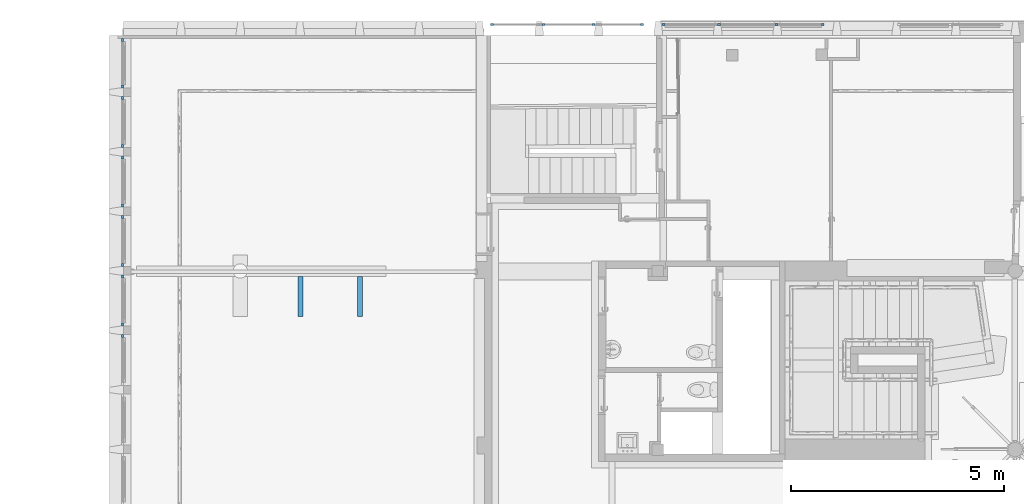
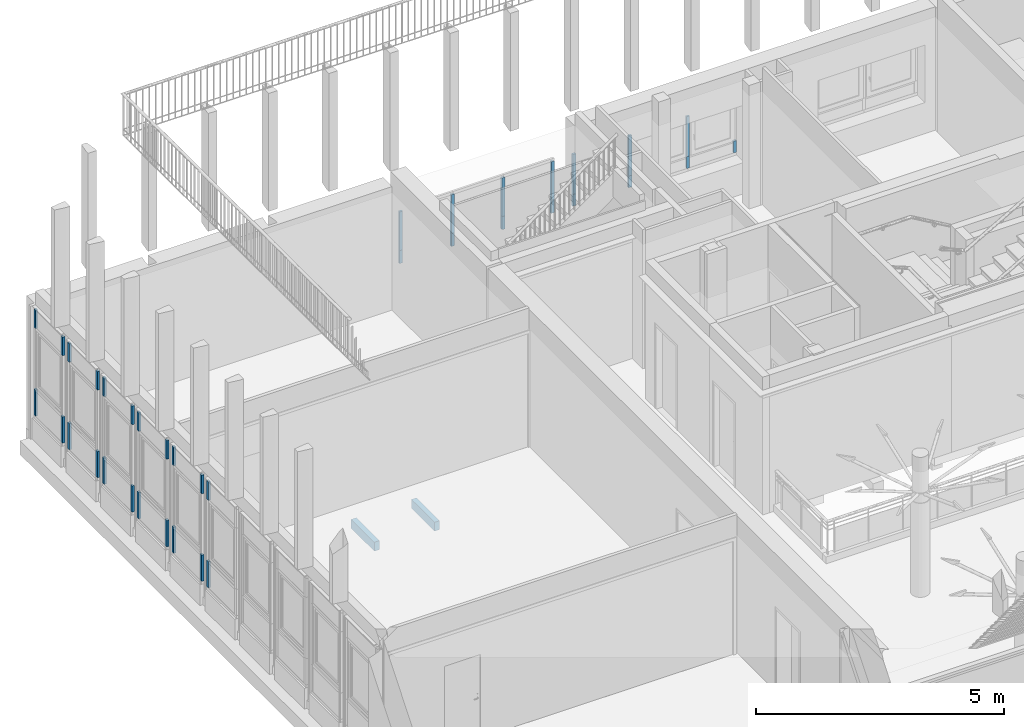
# One storey, part 13 of 65: 37 members, 2 beams, 8 elements without a shape of their own.
"""IFC4 building model written with IfcOpenShell, lengths in metres."""

from ifc_helpers import new_model, entity, si_unit, converted_unit, derived_unit, direction, frame, origin, place, context, subcontext, project, spatial, indexed_curve, outline, extrude, source, transform, mapped, material, type_object, type_shapes, element, aggregate, save


model = new_model("IFC4")

# Units and contexts
model_context = context("Model", 3, precision=1e-05, world=origin(), true_north=direction((6.12303176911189e-17, 1.0)))
body_context = subcontext(model_context, "Body", "Model", "MODEL_VIEW")
ifc_project = project(units=[si_unit("LENGTHUNIT", "METRE"), si_unit("AREAUNIT", "SQUARE_METRE"), si_unit("VOLUMEUNIT", "CUBIC_METRE"), converted_unit("PLANEANGLEUNIT", "DEGREE", entity("IfcRatioMeasure", 0.0174532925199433), si_unit("PLANEANGLEUNIT", "RADIAN"), dimensions=[0, 0, 0, 0, 0, 0, 0]), si_unit("MASSUNIT", "GRAM", prefix="KILO"), derived_unit("MASSDENSITYUNIT", [(si_unit("MASSUNIT", "GRAM", prefix="KILO"), 1), (si_unit("LENGTHUNIT", "METRE"), -3)]), derived_unit("MOMENTOFINERTIAUNIT", [(si_unit("LENGTHUNIT", "METRE"), 4)]), si_unit("TIMEUNIT", "SECOND"), si_unit("FREQUENCYUNIT", "HERTZ"), si_unit("THERMODYNAMICTEMPERATUREUNIT", "DEGREE_CELSIUS"), derived_unit("THERMALTRANSMITTANCEUNIT", [(si_unit("MASSUNIT", "GRAM", prefix="KILO"), 1), (si_unit("THERMODYNAMICTEMPERATUREUNIT", "KELVIN"), -1), (si_unit("TIMEUNIT", "SECOND"), -3)]), derived_unit("VOLUMETRICFLOWRATEUNIT", [(si_unit("LENGTHUNIT", "METRE"), 3), (si_unit("TIMEUNIT", "SECOND"), -1)]), si_unit("ELECTRICCURRENTUNIT", "AMPERE"), si_unit("ELECTRICVOLTAGEUNIT", "VOLT"), si_unit("POWERUNIT", "WATT"), si_unit("FORCEUNIT", "NEWTON", prefix="KILO"), si_unit("ILLUMINANCEUNIT", "LUX"), si_unit("LUMINOUSFLUXUNIT", "LUMEN"), si_unit("LUMINOUSINTENSITYUNIT", "CANDELA"), derived_unit("USERDEFINED", [(si_unit("MASSUNIT", "GRAM", prefix="KILO"), -1), (si_unit("LENGTHUNIT", "METRE"), -2), (si_unit("TIMEUNIT", "SECOND"), 3), (si_unit("LUMINOUSFLUXUNIT", "LUMEN"), 1)]), derived_unit("LINEARVELOCITYUNIT", [(si_unit("LENGTHUNIT", "METRE"), 1), (si_unit("TIMEUNIT", "SECOND"), -1)]), si_unit("PRESSUREUNIT", "PASCAL"), derived_unit("USERDEFINED", [(si_unit("LENGTHUNIT", "METRE"), -2), (si_unit("MASSUNIT", "GRAM", prefix="KILO"), 1), (si_unit("TIMEUNIT", "SECOND"), -2)]), derived_unit("LINEARFORCEUNIT", [(si_unit("MASSUNIT", "GRAM", prefix="KILO"), 1), (si_unit("LENGTHUNIT", "METRE"), 1), (si_unit("TIMEUNIT", "SECOND"), -2), (si_unit("LENGTHUNIT", "METRE"), -1)]), derived_unit("PLANARFORCEUNIT", [(si_unit("MASSUNIT", "GRAM", prefix="KILO"), 1), (si_unit("LENGTHUNIT", "METRE"), 1), (si_unit("TIMEUNIT", "SECOND"), -2), (si_unit("LENGTHUNIT", "METRE"), -2)])], contexts=[model_context])

# Site, building, storey
site_placement = place(None, origin())
site = spatial("IfcSite", under=ifc_project, at=site_placement, Name="Default", CompositionType="ELEMENT")
building_placement = place(site_placement, origin())
building = spatial("IfcBuilding", under=site, at=building_placement, Name="HOTEL CONSULAIRE BOULOGNE SUR MER", CompositionType="ELEMENT")
storey_placement = place(building_placement, origin())
storey = spatial("IfcBuildingStorey", under=building, at=storey_placement, Name="Niveau 0", CompositionType="ELEMENT", Elevation=1.31981936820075e-13)

# Curtain wall, member
curtain_wall_type = type_object("IfcCurtainWallType", Name="Mur-rideau:Simple panneau", PredefinedType="NOTDEFINED")
curtain_wall_1_placement = place(storey_placement, origin())
curtain_wall_1 = element("IfcCurtainWall", 1, at=curtain_wall_1_placement, inside=storey, type_object=curtain_wall_type, Name="Mur-rideau:Simple panneau", ObjectType="Mur-rideau:Simple panneau", PredefinedType="NOTDEFINED")
ifc_material_1 = material(Name="PVC - Blanc", Category="Plastique")
member_type_1 = type_object("IfcMemberType", Name="Meneau rectangulaire:50 x 35", PredefinedType="MULLION", material=ifc_material_1)
shared_shape_1 = source(origin(), body_context, "Body", "SweptSolid", [
    extrude(outline(indexed_curve([(-0.025, -0.035), (0.025, -0.035), (0.025, 0.035), (-0.025, 0.035), (-0.025, -0.035)], self_intersect=False)), frame((-0.035, -0.025, -0.458999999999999), z_axis=(0.0, 0.0, 1.0), x_axis=(0.0, -1.0, 0.0)), (0.0, 0.0, 1.0), 0.458999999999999),
])
type_shapes(member_type_1, [shared_shape_1])
member_1_placement = place(storey_placement, frame((-13.7900998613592, -16.9114499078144, 2.96999999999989), z_axis=(0.0, 0.0, 1.0), x_axis=(0.0, -1.0, 0.0)))
member_1 = element("IfcMember", 2, at=member_1_placement, type_object=member_type_1, material=ifc_material_1, Name="Meneau rectangulaire:50 x 35", ObjectType="Meneau rectangulaire:50 x 35", PredefinedType="MULLION", context=body_context, shape_type="MappedRepresentation", body=[
    mapped(shared_shape_1, transform((0.0, 0.0, 0.0), scale=1.0)),
])

curtain_wall_2_placement = place(storey_placement, origin())
curtain_wall_2 = element("IfcCurtainWall", 3, at=curtain_wall_2_placement, inside=storey, type_object=curtain_wall_type, Name="Mur-rideau:Simple panneau", ObjectType="Mur-rideau:Simple panneau", PredefinedType="NOTDEFINED")
member_2_placement = place(storey_placement, frame((-13.7900998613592, -15.5114499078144, 2.96999999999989), z_axis=(0.0, 0.0, 1.0), x_axis=(0.0, -1.0, 0.0)))
member_2 = element("IfcMember", 4, at=member_2_placement, type_object=member_type_1, material=ifc_material_1, Name="Meneau rectangulaire:50 x 35", ObjectType="Meneau rectangulaire:50 x 35", PredefinedType="MULLION", context=body_context, shape_type="MappedRepresentation", body=[
    mapped(shared_shape_1, transform((0.0, 0.0, 0.0), scale=1.0)),
])

curtain_wall_3_placement = place(storey_placement, origin())
curtain_wall_3 = element("IfcCurtainWall", 5, at=curtain_wall_3_placement, inside=storey, type_object=curtain_wall_type, Name="Mur-rideau:Simple panneau", ObjectType="Mur-rideau:Simple panneau", PredefinedType="NOTDEFINED")
member_3_placement = place(storey_placement, frame((-13.7900998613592, -14.1114499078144, 2.96999999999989), z_axis=(0.0, 0.0, 1.0), x_axis=(0.0, -1.0, 0.0)))
member_3 = element("IfcMember", 6, at=member_3_placement, type_object=member_type_1, material=ifc_material_1, Name="Meneau rectangulaire:50 x 35", ObjectType="Meneau rectangulaire:50 x 35", PredefinedType="MULLION", context=body_context, shape_type="MappedRepresentation", body=[
    mapped(shared_shape_1, transform((0.0, 0.0, 0.0), scale=1.0)),
])

curtain_wall_4_placement = place(storey_placement, origin())
curtain_wall_4 = element("IfcCurtainWall", 7, at=curtain_wall_4_placement, inside=storey, type_object=curtain_wall_type, Name="Mur-rideau:Simple panneau", ObjectType="Mur-rideau:Simple panneau", PredefinedType="NOTDEFINED")
member_4_placement = place(storey_placement, frame((-13.7900998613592, -12.7114499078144, 2.96999999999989), z_axis=(0.0, 0.0, 1.0), x_axis=(0.0, -1.0, 0.0)))
member_4 = element("IfcMember", 8, at=member_4_placement, type_object=member_type_1, material=ifc_material_1, Name="Meneau rectangulaire:50 x 35", ObjectType="Meneau rectangulaire:50 x 35", PredefinedType="MULLION", context=body_context, shape_type="MappedRepresentation", body=[
    mapped(shared_shape_1, transform((0.0, 0.0, 0.0), scale=1.0)),
])

curtain_wall_5_placement = place(storey_placement, origin())
curtain_wall_5 = element("IfcCurtainWall", 9, at=curtain_wall_5_placement, inside=storey, type_object=curtain_wall_type, Name="Mur-rideau:Simple panneau", ObjectType="Mur-rideau:Simple panneau", PredefinedType="NOTDEFINED")
member_5_placement = place(storey_placement, frame((-13.7900998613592, -11.3114499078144, 2.96999999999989), z_axis=(0.0, 0.0, 1.0), x_axis=(0.0, -1.0, 0.0)))
member_5 = element("IfcMember", 10, at=member_5_placement, type_object=member_type_1, material=ifc_material_1, Name="Meneau rectangulaire:50 x 35", ObjectType="Meneau rectangulaire:50 x 35", PredefinedType="MULLION", context=body_context, shape_type="MappedRepresentation", body=[
    mapped(shared_shape_1, transform((0.0, 0.0, 0.0), scale=1.0)),
])

curtain_wall_6_placement = place(storey_placement, origin())
curtain_wall_6 = element("IfcCurtainWall", 11, at=curtain_wall_6_placement, inside=storey, type_object=curtain_wall_type, Name="Mur-rideau:Simple panneau", ObjectType="Mur-rideau:Simple panneau", PredefinedType="NOTDEFINED")
member_type_2 = type_object("IfcMemberType", Name="Meneau rectangulaire:50 x 35", PredefinedType="MULLION", material=ifc_material_1)
shared_shape_2 = source(origin(), body_context, "Body", "SweptSolid", [
    extrude(outline(indexed_curve([(-0.025, -0.035), (0.025, -0.035), (0.025, 0.035), (-0.025, 0.035), (-0.025, -0.035)], self_intersect=False)), frame((-0.035, -0.025, -0.647), z_axis=(0.0, 0.0, 1.0), x_axis=(0.0, -1.0, 0.0)), (0.0, 0.0, 1.0), 0.647),
])
type_shapes(member_type_2, [shared_shape_2])
member_6_placement = place(storey_placement, frame((-13.7900998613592, -17.1114499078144, 0.359999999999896), z_axis=(0.0, 0.0, -1.0), x_axis=(0.0, 1.0, 0.0)))
member_6 = element("IfcMember", 12, at=member_6_placement, type_object=member_type_2, material=ifc_material_1, Name="Meneau rectangulaire:50 x 35", ObjectType="Meneau rectangulaire:50 x 35", PredefinedType="MULLION", context=body_context, shape_type="MappedRepresentation", body=[
    mapped(shared_shape_2, transform((0.0, 0.0, 0.0), scale=1.0)),
])

# Member
member_7_placement = place(storey_placement, frame((-13.7900998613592, -15.7114499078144, 0.359999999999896), z_axis=(0.0, 0.0, -1.0), x_axis=(0.0, 1.0, 0.0)))
member_7 = element("IfcMember", 13, at=member_7_placement, type_object=member_type_2, material=ifc_material_1, Name="Meneau rectangulaire:50 x 35", ObjectType="Meneau rectangulaire:50 x 35", PredefinedType="MULLION", context=body_context, shape_type="MappedRepresentation", body=[
    mapped(shared_shape_2, transform((0.0, 0.0, 0.0), scale=1.0)),
])

member_8_placement = place(storey_placement, frame((-13.7900998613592, -14.3114499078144, 0.359999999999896), z_axis=(0.0, 0.0, -1.0), x_axis=(0.0, 1.0, 0.0)))
member_8 = element("IfcMember", 14, at=member_8_placement, type_object=member_type_2, material=ifc_material_1, Name="Meneau rectangulaire:50 x 35", ObjectType="Meneau rectangulaire:50 x 35", PredefinedType="MULLION", context=body_context, shape_type="MappedRepresentation", body=[
    mapped(shared_shape_2, transform((0.0, 0.0, 0.0), scale=1.0)),
])

member_9_placement = place(storey_placement, frame((-13.7900998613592, -12.9114499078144, 0.359999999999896), z_axis=(0.0, 0.0, -1.0), x_axis=(0.0, 1.0, 0.0)))
member_9 = element("IfcMember", 15, at=member_9_placement, type_object=member_type_2, material=ifc_material_1, Name="Meneau rectangulaire:50 x 35", ObjectType="Meneau rectangulaire:50 x 35", PredefinedType="MULLION", context=body_context, shape_type="MappedRepresentation", body=[
    mapped(shared_shape_2, transform((0.0, 0.0, 0.0), scale=1.0)),
])

member_10_placement = place(storey_placement, frame((-13.7900998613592, -11.5114499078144, 0.359999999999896), z_axis=(0.0, 0.0, -1.0), x_axis=(0.0, 1.0, 0.0)))
member_10 = element("IfcMember", 16, at=member_10_placement, type_object=member_type_2, material=ifc_material_1, Name="Meneau rectangulaire:50 x 35", ObjectType="Meneau rectangulaire:50 x 35", PredefinedType="MULLION", context=body_context, shape_type="MappedRepresentation", body=[
    mapped(shared_shape_2, transform((0.0, 0.0, 0.0), scale=1.0)),
])

member_11_placement = place(storey_placement, frame((-13.7900998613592, -10.1503241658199, 0.359999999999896), z_axis=(0.0, 0.0, -1.0), x_axis=(0.0, 1.0, 0.0)))
member_11 = element("IfcMember", 17, at=member_11_placement, type_object=member_type_2, material=ifc_material_1, Name="Meneau rectangulaire:50 x 35", ObjectType="Meneau rectangulaire:50 x 35", PredefinedType="MULLION", context=body_context, shape_type="MappedRepresentation", body=[
    mapped(shared_shape_2, transform((0.0, 0.0, 0.0), scale=1.0)),
])

member_type_3 = type_object("IfcMemberType", Name="Meneau rectangulaire:50 x 35", PredefinedType="MULLION", material=ifc_material_1)
shared_shape_3 = source(origin(), body_context, "Body", "SweptSolid", [
    extrude(outline(indexed_curve([(-0.025, -0.035), (0.025, -0.035), (0.025, 0.035), (-0.025, 0.035), (-0.025, -0.035)], self_intersect=False)), frame((-0.035, -0.025, -0.458999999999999), z_axis=(0.0, 0.0, 1.0), x_axis=(0.0, -1.0, 0.0)), (0.0, 0.0, 1.0), 0.458999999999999),
])
type_shapes(member_type_3, [shared_shape_3])
member_12_placement = place(storey_placement, frame((-13.7900998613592, -17.1114499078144, 2.5109999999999), z_axis=(0.0, 0.0, -1.0), x_axis=(0.0, 1.0, 0.0)))
member_12 = element("IfcMember", 18, at=member_12_placement, type_object=member_type_3, material=ifc_material_1, Name="Meneau rectangulaire:50 x 35", ObjectType="Meneau rectangulaire:50 x 35", PredefinedType="MULLION", context=body_context, shape_type="MappedRepresentation", body=[
    mapped(shared_shape_3, transform((0.0, 0.0, 0.0), scale=1.0)),
])

aggregate(curtain_wall_6, [member_6, member_12])

member_13_placement = place(storey_placement, frame((-13.7900998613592, -15.7114499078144, 2.5109999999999), z_axis=(0.0, 0.0, -1.0), x_axis=(0.0, 1.0, 0.0)))
member_13 = element("IfcMember", 19, at=member_13_placement, type_object=member_type_3, material=ifc_material_1, Name="Meneau rectangulaire:50 x 35", ObjectType="Meneau rectangulaire:50 x 35", PredefinedType="MULLION", context=body_context, shape_type="MappedRepresentation", body=[
    mapped(shared_shape_3, transform((0.0, 0.0, 0.0), scale=1.0)),
])

member_14_placement = place(storey_placement, frame((-13.7900998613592, -14.3114499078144, 2.5109999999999), z_axis=(0.0, 0.0, -1.0), x_axis=(0.0, 1.0, 0.0)))
member_14 = element("IfcMember", 20, at=member_14_placement, type_object=member_type_3, material=ifc_material_1, Name="Meneau rectangulaire:50 x 35", ObjectType="Meneau rectangulaire:50 x 35", PredefinedType="MULLION", context=body_context, shape_type="MappedRepresentation", body=[
    mapped(shared_shape_3, transform((0.0, 0.0, 0.0), scale=1.0)),
])

member_15_placement = place(storey_placement, frame((-13.7900998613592, -12.9114499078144, 2.5109999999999), z_axis=(0.0, 0.0, -1.0), x_axis=(0.0, 1.0, 0.0)))
member_15 = element("IfcMember", 21, at=member_15_placement, type_object=member_type_3, material=ifc_material_1, Name="Meneau rectangulaire:50 x 35", ObjectType="Meneau rectangulaire:50 x 35", PredefinedType="MULLION", context=body_context, shape_type="MappedRepresentation", body=[
    mapped(shared_shape_3, transform((0.0, 0.0, 0.0), scale=1.0)),
])

member_16_placement = place(storey_placement, frame((-13.7900998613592, -11.5114499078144, 2.5109999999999), z_axis=(0.0, 0.0, -1.0), x_axis=(0.0, 1.0, 0.0)))
member_16 = element("IfcMember", 22, at=member_16_placement, type_object=member_type_3, material=ifc_material_1, Name="Meneau rectangulaire:50 x 35", ObjectType="Meneau rectangulaire:50 x 35", PredefinedType="MULLION", context=body_context, shape_type="MappedRepresentation", body=[
    mapped(shared_shape_3, transform((0.0, 0.0, 0.0), scale=1.0)),
])

member_17_placement = place(storey_placement, frame((-13.7900998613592, -10.1503241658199, 2.5109999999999), z_axis=(0.0, 0.0, -1.0), x_axis=(0.0, 1.0, 0.0)))
member_17 = element("IfcMember", 23, at=member_17_placement, type_object=member_type_3, material=ifc_material_1, Name="Meneau rectangulaire:50 x 35", ObjectType="Meneau rectangulaire:50 x 35", PredefinedType="MULLION", context=body_context, shape_type="MappedRepresentation", body=[
    mapped(shared_shape_3, transform((0.0, 0.0, 0.0), scale=1.0)),
])

member_type_4 = type_object("IfcMemberType", Name="Meneau rectangulaire:50 x 35", PredefinedType="MULLION", material=ifc_material_1)
shared_shape_4 = source(origin(), body_context, "Body", "SweptSolid", [
    extrude(outline(indexed_curve([(-0.025, -0.035), (0.025, -0.035), (0.025, 0.035), (-0.025, 0.035), (-0.025, -0.035)], self_intersect=False)), frame((-0.035, -0.025, -0.647), z_axis=(0.0, 0.0, 1.0), x_axis=(0.0, -1.0, 0.0)), (0.0, 0.0, 1.0), 0.647),
])
type_shapes(member_type_4, [shared_shape_4])
member_18_placement = place(storey_placement, frame((-13.7900998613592, -16.9114499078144, 1.0069999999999), z_axis=(0.0, 0.0, 1.0), x_axis=(0.0, -1.0, 0.0)))
member_18 = element("IfcMember", 24, at=member_18_placement, type_object=member_type_4, material=ifc_material_1, Name="Meneau rectangulaire:50 x 35", ObjectType="Meneau rectangulaire:50 x 35", PredefinedType="MULLION", context=body_context, shape_type="MappedRepresentation", body=[
    mapped(shared_shape_4, transform((0.0, 0.0, 0.0), scale=1.0)),
])

aggregate(curtain_wall_1, [member_1, member_7, member_13, member_18])

member_19_placement = place(storey_placement, frame((-13.7900998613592, -15.5114499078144, 1.0069999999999), z_axis=(0.0, 0.0, 1.0), x_axis=(0.0, -1.0, 0.0)))
member_19 = element("IfcMember", 25, at=member_19_placement, type_object=member_type_4, material=ifc_material_1, Name="Meneau rectangulaire:50 x 35", ObjectType="Meneau rectangulaire:50 x 35", PredefinedType="MULLION", context=body_context, shape_type="MappedRepresentation", body=[
    mapped(shared_shape_4, transform((0.0, 0.0, 0.0), scale=1.0)),
])

aggregate(curtain_wall_2, [member_2, member_8, member_14, member_19])

member_20_placement = place(storey_placement, frame((-13.7900998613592, -14.1114499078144, 1.0069999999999), z_axis=(0.0, 0.0, 1.0), x_axis=(0.0, -1.0, 0.0)))
member_20 = element("IfcMember", 26, at=member_20_placement, type_object=member_type_4, material=ifc_material_1, Name="Meneau rectangulaire:50 x 35", ObjectType="Meneau rectangulaire:50 x 35", PredefinedType="MULLION", context=body_context, shape_type="MappedRepresentation", body=[
    mapped(shared_shape_4, transform((0.0, 0.0, 0.0), scale=1.0)),
])

aggregate(curtain_wall_3, [member_3, member_9, member_15, member_20])

member_21_placement = place(storey_placement, frame((-13.7900998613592, -12.7114499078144, 1.0069999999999), z_axis=(0.0, 0.0, 1.0), x_axis=(0.0, -1.0, 0.0)))
member_21 = element("IfcMember", 27, at=member_21_placement, type_object=member_type_4, material=ifc_material_1, Name="Meneau rectangulaire:50 x 35", ObjectType="Meneau rectangulaire:50 x 35", PredefinedType="MULLION", context=body_context, shape_type="MappedRepresentation", body=[
    mapped(shared_shape_4, transform((0.0, 0.0, 0.0), scale=1.0)),
])

aggregate(curtain_wall_4, [member_4, member_10, member_16, member_21])

member_22_placement = place(storey_placement, frame((-13.7900998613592, -11.3114499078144, 1.0069999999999), z_axis=(0.0, 0.0, 1.0), x_axis=(0.0, -1.0, 0.0)))
member_22 = element("IfcMember", 28, at=member_22_placement, type_object=member_type_4, material=ifc_material_1, Name="Meneau rectangulaire:50 x 35", ObjectType="Meneau rectangulaire:50 x 35", PredefinedType="MULLION", context=body_context, shape_type="MappedRepresentation", body=[
    mapped(shared_shape_4, transform((0.0, 0.0, 0.0), scale=1.0)),
])

aggregate(curtain_wall_5, [member_5, member_11, member_17, member_22])

# Curtain wall, members
curtain_wall_7_placement = place(storey_placement, origin())
curtain_wall_7 = element("IfcCurtainWall", 29, at=curtain_wall_7_placement, inside=storey, type_object=curtain_wall_type, Name="Mur-rideau:Simple panneau", ObjectType="Mur-rideau:Simple panneau", PredefinedType="NOTDEFINED")
member_type_5 = type_object("IfcMemberType", Name="Meneau rectangulaire:50 x 35", PredefinedType="MULLION", material=ifc_material_1)
shared_shape_5 = source(origin(), body_context, "Body", "SweptSolid", [
    extrude(outline(indexed_curve([(-0.025, -0.035), (0.025, -0.035), (0.025, 0.035), (-0.025, 0.035), (-0.025, -0.035)], self_intersect=False)), frame((-0.035, -0.025, -0.95126605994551), z_axis=(0.0, 0.0, 1.0), x_axis=(0.0, -1.0, 0.0)), (0.0, 0.0, 1.0), 0.95126605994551),
])
type_shapes(member_type_5, [shared_shape_5])
member_23_placement = place(storey_placement, frame((-5.15977317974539, -9.84832416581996, 2.12099999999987), z_axis=(0.0, 0.0, 1.0), x_axis=(-1.0, 0.0, 0.0)))
member_23 = element("IfcMember", 30, at=member_23_placement, type_object=member_type_5, material=ifc_material_1, Name="Meneau rectangulaire:50 x 35", ObjectType="Meneau rectangulaire:50 x 35", PredefinedType="MULLION", context=body_context, shape_type="MappedRepresentation", body=[
    mapped(shared_shape_5, transform((0.0, 0.0, 0.0), scale=1.0)),
])
member_type_6 = type_object("IfcMemberType", Name="Meneau rectangulaire:50 x 35", PredefinedType="MULLION", material=ifc_material_1)
shared_shape_6 = source(origin(), body_context, "Body", "SweptSolid", [
    extrude(outline(indexed_curve([(-0.025, -0.035), (0.025, -0.035), (0.025, 0.035), (-0.025, 0.035), (-0.025, -0.035)], self_intersect=False)), frame((-0.035, -0.025, -0.32), z_axis=(0.0, 0.0, 1.0), x_axis=(0.0, -1.0, 0.0)), (0.0, 0.0, 1.0), 0.32),
])
type_shapes(member_type_6, [shared_shape_6])
member_24_placement = place(storey_placement, frame((-1.56182130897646, -9.84832416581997, 0.849733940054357), z_axis=(0.0, 0.0, -1.0), x_axis=(1.0, 0.0, 0.0)))
member_24 = element("IfcMember", 31, at=member_24_placement, type_object=member_type_6, material=ifc_material_1, Name="Meneau rectangulaire:50 x 35", ObjectType="Meneau rectangulaire:50 x 35", PredefinedType="MULLION", context=body_context, shape_type="MappedRepresentation", body=[
    mapped(shared_shape_6, transform((0.0, 0.0, 0.0), scale=1.0)),
])
member_type_7 = type_object("IfcMemberType", Name="Meneau rectangulaire:50 x 35", PredefinedType="MULLION", material=ifc_material_1)
shared_shape_7 = source(origin(), body_context, "Body", "SweptSolid", [
    extrude(outline(indexed_curve([(-0.025, -0.035), (0.025, -0.035), (0.025, 0.035), (-0.025, 0.035), (-0.025, -0.035)], self_intersect=False)), frame((0.0, -0.025, -0.32), z_axis=(0.0, 0.0, 1.0), x_axis=(0.0, -1.0, 0.0)), (0.0, 0.0, 1.0), 0.32),
])
type_shapes(member_type_7, [shared_shape_7])
member_25_placement = place(storey_placement, frame((-2.74314932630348, -9.84832416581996, 0.849733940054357), z_axis=(0.0, 0.0, -1.0), x_axis=(1.0, 0.0, 0.0)))
member_25 = element("IfcMember", 32, at=member_25_placement, type_object=member_type_7, material=ifc_material_1, Name="Meneau rectangulaire:50 x 35", ObjectType="Meneau rectangulaire:50 x 35", PredefinedType="MULLION", context=body_context, shape_type="MappedRepresentation", body=[
    mapped(shared_shape_7, transform((0.0, 0.0, 0.0), scale=1.0)),
])
member_26_placement = place(storey_placement, frame((-3.91804206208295, -9.84832416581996, 0.849733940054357), z_axis=(0.0, 0.0, -1.0), x_axis=(1.0, 0.0, 0.0)))
member_26 = element("IfcMember", 33, at=member_26_placement, type_object=member_type_7, material=ifc_material_1, Name="Meneau rectangulaire:50 x 35", ObjectType="Meneau rectangulaire:50 x 35", PredefinedType="MULLION", context=body_context, shape_type="MappedRepresentation", body=[
    mapped(shared_shape_7, transform((0.0, 0.0, 0.0), scale=1.0)),
])
member_type_8 = type_object("IfcMemberType", Name="Meneau rectangulaire:50 x 35", PredefinedType="MULLION", material=ifc_material_1)
shared_shape_8 = source(origin(), body_context, "Body", "SweptSolid", [
    extrude(outline(indexed_curve([(-0.025, -0.035), (0.025, -0.035), (0.025, 0.035), (-0.025, 0.035), (-0.025, -0.035)], self_intersect=False)), frame((-0.035, -0.025, -0.95126605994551), z_axis=(0.0, 0.0, 1.0), x_axis=(0.0, -1.0, 0.0)), (0.0, 0.0, 1.0), 0.95126605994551),
])
type_shapes(member_type_8, [shared_shape_8])
member_27_placement = place(storey_placement, frame((-1.56182130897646, -9.84832416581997, 1.16973394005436), z_axis=(0.0, 0.0, -1.0), x_axis=(1.0, 0.0, 0.0)))
member_27 = element("IfcMember", 34, at=member_27_placement, type_object=member_type_8, material=ifc_material_1, Name="Meneau rectangulaire:50 x 35", ObjectType="Meneau rectangulaire:50 x 35", PredefinedType="MULLION", context=body_context, shape_type="MappedRepresentation", body=[
    mapped(shared_shape_8, transform((0.0, 0.0, 0.0), scale=1.0)),
])
member_type_9 = type_object("IfcMemberType", Name="Meneau rectangulaire:50 x 35", PredefinedType="MULLION", material=ifc_material_1)
shared_shape_9 = source(origin(), body_context, "Body", "SweptSolid", [
    extrude(outline(indexed_curve([(-0.025, -0.035), (0.025, -0.035), (0.025, 0.035), (-0.025, 0.035), (-0.025, -0.035)], self_intersect=False)), frame((-0.035, -0.025, -0.32), z_axis=(0.0, 0.0, 1.0), x_axis=(0.0, -1.0, 0.0)), (0.0, 0.0, 1.0), 0.32),
])
type_shapes(member_type_9, [shared_shape_9])
member_28_placement = place(storey_placement, frame((-5.15977317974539, -9.84832416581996, 1.16973394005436), z_axis=(0.0, 0.0, 1.0), x_axis=(-1.0, 0.0, 0.0)))
member_28 = element("IfcMember", 35, at=member_28_placement, type_object=member_type_9, material=ifc_material_1, Name="Meneau rectangulaire:50 x 35", ObjectType="Meneau rectangulaire:50 x 35", PredefinedType="MULLION", context=body_context, shape_type="MappedRepresentation", body=[
    mapped(shared_shape_9, transform((0.0, 0.0, 0.0), scale=1.0)),
])
member_type_10 = type_object("IfcMemberType", Name="Meneau rectangulaire:50 x 35", PredefinedType="MULLION", material=ifc_material_1)
shared_shape_10 = source(origin(), body_context, "Body", "SweptSolid", [
    extrude(outline(indexed_curve([(-0.025, -0.035), (0.025, -0.035), (0.025, 0.035), (-0.025, 0.035), (-0.025, -0.035)], self_intersect=False)), frame((0.0, -0.025, -0.95126605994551), z_axis=(0.0, 0.0, 1.0), x_axis=(0.0, -1.0, 0.0)), (0.0, 0.0, 1.0), 0.95126605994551),
])
type_shapes(member_type_10, [shared_shape_10])
member_29_placement = place(storey_placement, frame((-2.74314932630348, -9.84832416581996, 1.16973394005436), z_axis=(0.0, 0.0, -1.0), x_axis=(1.0, 0.0, 0.0)))
member_29 = element("IfcMember", 36, at=member_29_placement, type_object=member_type_10, material=ifc_material_1, Name="Meneau rectangulaire:50 x 35", ObjectType="Meneau rectangulaire:50 x 35", PredefinedType="MULLION", context=body_context, shape_type="MappedRepresentation", body=[
    mapped(shared_shape_10, transform((0.0, 0.0, 0.0), scale=1.0)),
])
member_30_placement = place(storey_placement, frame((-3.91804206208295, -9.84832416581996, 1.16973394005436), z_axis=(0.0, 0.0, -1.0), x_axis=(1.0, 0.0, 0.0)))
member_30 = element("IfcMember", 37, at=member_30_placement, type_object=member_type_10, material=ifc_material_1, Name="Meneau rectangulaire:50 x 35", ObjectType="Meneau rectangulaire:50 x 35", PredefinedType="MULLION", context=body_context, shape_type="MappedRepresentation", body=[
    mapped(shared_shape_10, transform((0.0, 0.0, 0.0), scale=1.0)),
])
aggregate(curtain_wall_7, [member_23, member_24, member_25, member_26, member_27, member_28, member_29, member_30])

curtain_wall_8_placement = place(storey_placement, origin())
curtain_wall_8 = element("IfcCurtainWall", 38, at=curtain_wall_8_placement, inside=storey, type_object=curtain_wall_type, Name="Mur-rideau:Simple panneau", ObjectType="Mur-rideau:Simple panneau", PredefinedType="NOTDEFINED")
member_type_11 = type_object("IfcMemberType", Name="Meneau rectangulaire:50 x 35", PredefinedType="MULLION", material=ifc_material_1)
shared_shape_11 = source(origin(), body_context, "Body", "SweptSolid", [
    extrude(outline(indexed_curve([(-0.025, -0.035), (0.025, -0.035), (0.025, 0.035), (-0.025, 0.035), (-0.025, -0.035)], self_intersect=False)), frame((-0.035, -0.025, -0.98326605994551), z_axis=(0.0, 0.0, 1.0), x_axis=(0.0, -1.0, 0.0)), (0.0, 0.0, 1.0), 0.98326605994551),
])
type_shapes(member_type_11, [shared_shape_11])
member_31_placement = place(storey_placement, frame((-1.1294235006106, -9.84674446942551, 2.12099999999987), z_axis=(0.0, 0.0, 1.0), x_axis=(-1.0, 0.0, 0.0)))
member_31 = element("IfcMember", 39, at=member_31_placement, type_object=member_type_11, material=ifc_material_1, Name="Meneau rectangulaire:50 x 35", ObjectType="Meneau rectangulaire:50 x 35", PredefinedType="MULLION", context=body_context, shape_type="MappedRepresentation", body=[
    mapped(shared_shape_11, transform((0.0, 0.0, 0.0), scale=1.0)),
])
member_type_12 = type_object("IfcMemberType", Name="Meneau rectangulaire:50 x 35", PredefinedType="MULLION", material=ifc_material_1)
shared_shape_12 = source(origin(), body_context, "Body", "SweptSolid", [
    extrude(outline(indexed_curve([(-0.025, -0.035), (0.025, -0.035), (0.025, 0.035), (-0.025, 0.035), (-0.025, -0.035)], self_intersect=False)), frame((-0.035, -0.025, -0.288), z_axis=(0.0, 0.0, 1.0), x_axis=(0.0, -1.0, 0.0)), (0.0, 0.0, 1.0), 0.288),
])
type_shapes(member_type_12, [shared_shape_12])
member_32_placement = place(storey_placement, frame((2.6818649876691, -9.84674446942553, 0.849733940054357), z_axis=(0.0, 0.0, -1.0), x_axis=(1.0, 0.0, 0.0)))
member_32 = element("IfcMember", 40, at=member_32_placement, type_object=member_type_12, material=ifc_material_1, Name="Meneau rectangulaire:50 x 35", ObjectType="Meneau rectangulaire:50 x 35", PredefinedType="MULLION", context=body_context, shape_type="MappedRepresentation", body=[
    mapped(shared_shape_12, transform((0.0, 0.0, 0.0), scale=1.0)),
])
member_type_13 = type_object("IfcMemberType", Name="Meneau rectangulaire:50 x 35", PredefinedType="MULLION", material=ifc_material_1)
shared_shape_13 = source(origin(), body_context, "Body", "SweptSolid", [
    extrude(outline(indexed_curve([(-0.025, -0.035), (0.025, -0.035), (0.025, 0.035), (-0.025, 0.035), (-0.025, -0.035)], self_intersect=False)), frame((0.0, -0.025, -0.288), z_axis=(0.0, 0.0, 1.0), x_axis=(0.0, -1.0, 0.0)), (0.0, 0.0, 1.0), 0.288),
])
type_shapes(member_type_13, [shared_shape_13])
member_33_placement = place(storey_placement, frame((1.5538649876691, -9.84674446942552, 0.849733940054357), z_axis=(0.0, 0.0, -1.0), x_axis=(1.0, 0.0, 0.0)))
member_33 = element("IfcMember", 41, at=member_33_placement, type_object=member_type_13, material=ifc_material_1, Name="Meneau rectangulaire:50 x 35", ObjectType="Meneau rectangulaire:50 x 35", PredefinedType="MULLION", context=body_context, shape_type="MappedRepresentation", body=[
    mapped(shared_shape_13, transform((0.0, 0.0, 0.0), scale=1.0)),
])
member_34_placement = place(storey_placement, frame((0.20622074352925, -9.84674446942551, 0.849733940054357), z_axis=(0.0, 0.0, -1.0), x_axis=(1.0, 0.0, 0.0)))
member_34 = element("IfcMember", 42, at=member_34_placement, type_object=member_type_13, material=ifc_material_1, Name="Meneau rectangulaire:50 x 35", ObjectType="Meneau rectangulaire:50 x 35", PredefinedType="MULLION", context=body_context, shape_type="MappedRepresentation", body=[
    mapped(shared_shape_13, transform((0.0, 0.0, 0.0), scale=1.0)),
])
member_type_14 = type_object("IfcMemberType", Name="Meneau rectangulaire:50 x 35", PredefinedType="MULLION", material=ifc_material_1)
shared_shape_14 = source(origin(), body_context, "Body", "SweptSolid", [
    extrude(outline(indexed_curve([(-0.025, -0.035), (0.025, -0.035), (0.025, 0.035), (-0.025, 0.035), (-0.025, -0.035)], self_intersect=False)), frame((-0.035, -0.025, -0.288), z_axis=(0.0, 0.0, 1.0), x_axis=(0.0, -1.0, 0.0)), (0.0, 0.0, 1.0), 0.288),
])
type_shapes(member_type_14, [shared_shape_14])
member_35_placement = place(storey_placement, frame((-1.1294235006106, -9.84674446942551, 1.13773394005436), z_axis=(0.0, 0.0, 1.0), x_axis=(-1.0, 0.0, 0.0)))
member_35 = element("IfcMember", 43, at=member_35_placement, type_object=member_type_14, material=ifc_material_1, Name="Meneau rectangulaire:50 x 35", ObjectType="Meneau rectangulaire:50 x 35", PredefinedType="MULLION", context=body_context, shape_type="MappedRepresentation", body=[
    mapped(shared_shape_14, transform((0.0, 0.0, 0.0), scale=1.0)),
])
member_type_15 = type_object("IfcMemberType", Name="Meneau rectangulaire:50 x 35", PredefinedType="MULLION", material=ifc_material_1)
shared_shape_15 = source(origin(), body_context, "Body", "SweptSolid", [
    extrude(outline(indexed_curve([(-0.025, -0.035), (0.025, -0.035), (0.025, 0.035), (-0.025, 0.035), (-0.025, -0.035)], self_intersect=False)), frame((0.0, -0.025, -0.98326605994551), z_axis=(0.0, 0.0, 1.0), x_axis=(0.0, -1.0, 0.0)), (0.0, 0.0, 1.0), 0.98326605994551),
])
type_shapes(member_type_15, [shared_shape_15])
member_36_placement = place(storey_placement, frame((1.5538649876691, -9.84674446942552, 1.13773394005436), z_axis=(0.0, 0.0, -1.0), x_axis=(1.0, 0.0, 0.0)))
member_36 = element("IfcMember", 44, at=member_36_placement, type_object=member_type_15, material=ifc_material_1, Name="Meneau rectangulaire:50 x 35", ObjectType="Meneau rectangulaire:50 x 35", PredefinedType="MULLION", context=body_context, shape_type="MappedRepresentation", body=[
    mapped(shared_shape_15, transform((0.0, 0.0, 0.0), scale=1.0)),
])
member_37_placement = place(storey_placement, frame((0.20622074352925, -9.84674446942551, 1.13773394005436), z_axis=(0.0, 0.0, -1.0), x_axis=(1.0, 0.0, 0.0)))
member_37 = element("IfcMember", 45, at=member_37_placement, type_object=member_type_15, material=ifc_material_1, Name="Meneau rectangulaire:50 x 35", ObjectType="Meneau rectangulaire:50 x 35", PredefinedType="MULLION", context=body_context, shape_type="MappedRepresentation", body=[
    mapped(shared_shape_15, transform((0.0, 0.0, 0.0), scale=1.0)),
])
aggregate(curtain_wall_8, [member_31, member_32, member_33, member_34, member_35, member_36, member_37])

# Beams
ifc_material_2 = material(Name="Béton - Béton coulé sur place", Category="Béton")
beam_type_1 = type_object("IfcBeamType", Name="Poutre rectangulaire - Béton:120X220", PredefinedType="BEAM", material=ifc_material_2)
shared_shape_16 = source(origin(), body_context, "Body", "SweptSolid", [
    extrude(outline(indexed_curve([(-0.622365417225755, -0.0799999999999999), (0.313034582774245, -0.0799999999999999), (0.313034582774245, -0.06), (0.309330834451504, -0.06), (0.309330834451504, 0.14), (-0.622365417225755, 0.14), (-0.622365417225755, -0.0799999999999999)], self_intersect=False)), frame((0.0, 0.622365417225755, 0.0799999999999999), z_axis=(1.0, 0.0, 0.0), x_axis=(0.0, 1.0, 0.0)), (0.0, 0.0, 1.0), 0.12),
])
type_shapes(beam_type_1, [shared_shape_16])
beam_1_placement = place(storey_placement, frame((-9.69171884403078, -16.6796060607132, -0.490000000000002)))
element("IfcBeam", 46, at=beam_1_placement, inside=storey, type_object=beam_type_1, material=ifc_material_2, Name="Poutre rectangulaire - Béton:120X220", ObjectType="Poutre rectangulaire - Béton:120X220", PredefinedType="BEAM", context=body_context, shape_type="MappedRepresentation", body=[
    mapped(shared_shape_16, transform((0.0, 0.0, 0.0), scale=1.0)),
])
beam_type_2 = type_object("IfcBeamType", Name="Poutre rectangulaire - Béton:120X220", PredefinedType="BEAM", material=ifc_material_2)
shared_shape_17 = source(origin(), body_context, "Body", "SweptSolid", [
    extrude(outline(indexed_curve([(-0.622365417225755, -0.0799999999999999), (0.313034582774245, -0.0799999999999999), (0.313034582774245, -0.06), (0.309330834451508, -0.06), (0.309330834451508, 0.14), (-0.622365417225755, 0.14), (-0.622365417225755, -0.0799999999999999)], self_intersect=False)), frame((0.0, 0.622365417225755, 0.0799999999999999), z_axis=(1.0, 0.0, 0.0), x_axis=(0.0, 1.0, 0.0)), (0.0, 0.0, 1.0), 0.12),
])
type_shapes(beam_type_2, [shared_shape_17])
beam_2_placement = place(storey_placement, frame((-8.29171884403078, -16.6796060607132, -0.490000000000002)))
element("IfcBeam", 47, at=beam_2_placement, inside=storey, type_object=beam_type_2, material=ifc_material_2, Name="Poutre rectangulaire - Béton:120X220", ObjectType="Poutre rectangulaire - Béton:120X220", PredefinedType="BEAM", context=body_context, shape_type="MappedRepresentation", body=[
    mapped(shared_shape_17, transform((0.0, 0.0, 0.0), scale=1.0)),
])

save(model, "model.ifc")
